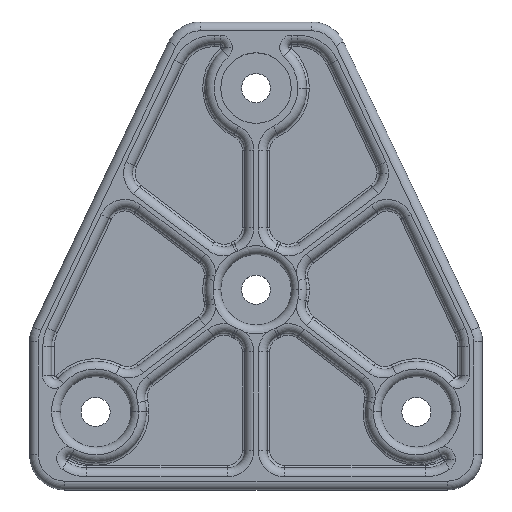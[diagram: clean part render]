
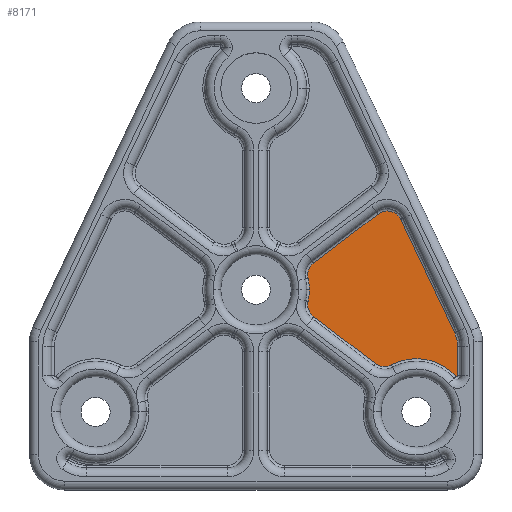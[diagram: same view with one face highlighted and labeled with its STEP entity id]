
A CAD part, top view. The second image highlights one B-rep face of the part: STEP entity #8171.
In plain terms, the highlighted planar face has unit normal (0, 0, 1).
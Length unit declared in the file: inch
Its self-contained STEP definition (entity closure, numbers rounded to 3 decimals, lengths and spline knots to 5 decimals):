
#6 = ORIENTED_EDGE ( 'NONE', *, *, #4790, .T. ) ;
#31 = DIRECTION ( 'NONE',  ( 0., 0., 1. ) ) ;
#108 = DIRECTION ( 'NONE',  ( 0., 0., 1. ) ) ;
#126 = CARTESIAN_POINT ( 'NONE',  ( 1.64231, 2.18401, 0.1875 ) ) ;
#184 = LINE ( 'NONE', #4843, #2020 ) ;
#216 = CARTESIAN_POINT ( 'NONE',  ( 0.59067, 1.51671, 0.1875 ) ) ;
#263 = CARTESIAN_POINT ( 'NONE',  ( 2.25411, 0.89805, 0.1875 ) ) ;
#497 = EDGE_LOOP ( 'NONE', ( #6358, #2715, #2506, #4099, #3902, #7330, #6, #7100, #6888, #1417, #1216, #4628, #8089 ) ) ;
#547 = DIRECTION ( 'NONE',  ( 1., 0., 0. ) ) ;
#623 = AXIS2_PLACEMENT_3D ( 'NONE', #1679, #6482, #2378 ) ;
#714 = CIRCLE ( 'NONE', #8611, 0.01 ) ;
#724 = VERTEX_POINT ( 'NONE', #4010 ) ;
#794 = DIRECTION ( 'NONE',  ( 0., 0., -1. ) ) ;
#850 = CARTESIAN_POINT ( 'NONE',  ( 0., 0., 0.1875 ) ) ;
#900 = EDGE_CURVE ( 'NONE', #724, #5660, #714, .T. ) ;
#1103 = CIRCLE ( 'NONE', #8495, 0.605 ) ;
#1216 = ORIENTED_EDGE ( 'NONE', *, *, #6684, .T. ) ;
#1417 = ORIENTED_EDGE ( 'NONE', *, *, #7954, .T. ) ;
#1539 = DIRECTION ( 'NONE',  ( 1., 0., 0. ) ) ;
#1679 = CARTESIAN_POINT ( 'NONE',  ( 1.45713, 0.6848, 0.1875 ) ) ;
#1809 = CIRCLE ( 'NONE', #6062, 0.17 ) ;
#1893 = VERTEX_POINT ( 'NONE', #3087 ) ;
#1928 = CIRCLE ( 'NONE', #4834, 0.605 ) ;
#2020 = VECTOR ( 'NONE', #6247, 39.37008 ) ;
#2085 = AXIS2_PLACEMENT_3D ( 'NONE', #6200, #2087, #6893 ) ;
#2087 = DIRECTION ( 'NONE',  ( 0., 0., 1. ) ) ;
#2283 = CARTESIAN_POINT ( 'NONE',  ( 2.28, 0.4082, 0.1875 ) ) ;
#2295 = DIRECTION ( 'NONE',  ( 0., 1., 0. ) ) ;
#2310 = DIRECTION ( 'NONE',  ( 0., 0., 1. ) ) ;
#2378 = DIRECTION ( 'NONE',  ( 1., 0., 0. ) ) ;
#2446 = CARTESIAN_POINT ( 'NONE',  ( 2.29, 0.73909, 0.1875 ) ) ;
#2506 = ORIENTED_EDGE ( 'NONE', *, *, #6057, .T. ) ;
#2628 = EDGE_CURVE ( 'NONE', #7950, #724, #1103, .T. ) ;
#2658 = CIRCLE ( 'NONE', #4323, 0.37 ) ;
#2715 = ORIENTED_EDGE ( 'NONE', *, *, #5084, .T. ) ;
#2765 = VECTOR ( 'NONE', #4334, 39.37008 ) ;
#2768 = FACE_OUTER_BOUND ( 'NONE', #497, .T. ) ;
#2889 = DIRECTION ( 'NONE',  ( 1., 0., 0. ) ) ;
#2892 = CARTESIAN_POINT ( 'NONE',  ( 1.82, 0., 0.1875 ) ) ;
#2983 = LINE ( 'NONE', #5025, #2765 ) ;
#3068 = DIRECTION ( 'NONE',  ( 0.796, -0.606, 0. ) ) ;
#3087 = CARTESIAN_POINT ( 'NONE',  ( 0.65366, 1.08292, 0.1875 ) ) ;
#3206 = CARTESIAN_POINT ( 'NONE',  ( 0., 1.38583, 0.1875 ) ) ;
#3220 = VERTEX_POINT ( 'NONE', #6629 ) ;
#3229 = CIRCLE ( 'NONE', #7090, 0.17 ) ;
#3578 = DIRECTION ( 'NONE',  ( 1., 0., 0. ) ) ;
#3597 = CARTESIAN_POINT ( 'NONE',  ( 1.38581, 2.24623, 0.1875 ) ) ;
#3688 = CARTESIAN_POINT ( 'NONE',  ( 2.29, 0.4082, 0.1875 ) ) ;
#3888 = DIRECTION ( 'NONE',  ( 1., 0., 0. ) ) ;
#3902 = ORIENTED_EDGE ( 'NONE', *, *, #6377, .T. ) ;
#3978 = VERTEX_POINT ( 'NONE', #216 ) ;
#4010 = CARTESIAN_POINT ( 'NONE',  ( 2.27252, 0.40156, 0.1875 ) ) ;
#4099 = ORIENTED_EDGE ( 'NONE', *, *, #5812, .T. ) ;
#4151 = CARTESIAN_POINT ( 'NONE',  ( 0.75665, 1.55348, 0.1875 ) ) ;
#4219 = CARTESIAN_POINT ( 'NONE',  ( 0.75665, 1.21818, 0.1875 ) ) ;
#4323 = AXIS2_PLACEMENT_3D ( 'NONE', #8774, #4636, #547 ) ;
#4334 = DIRECTION ( 'NONE',  ( -0.796, -0.606, 0. ) ) ;
#4628 = ORIENTED_EDGE ( 'NONE', *, *, #6339, .T. ) ;
#4636 = DIRECTION ( 'NONE',  ( 0., 0., 1. ) ) ;
#4790 = EDGE_CURVE ( 'NONE', #8597, #7950, #6072, .T. ) ;
#4834 = AXIS2_PLACEMENT_3D ( 'NONE', #4888, #794, #5591 ) ;
#4835 = DIRECTION ( 'NONE',  ( 1., 0., 0. ) ) ;
#4843 = CARTESIAN_POINT ( 'NONE',  ( 1.64231, 2.18401, 0.1875 ) ) ;
#4888 = CARTESIAN_POINT ( 'NONE',  ( 0., 1.38583, 0.1875 ) ) ;
#4900 = DIRECTION ( 'NONE',  ( 1., 0., 0. ) ) ;
#5025 = CARTESIAN_POINT ( 'NONE',  ( -0.57405, 0.7539, 0.1875 ) ) ;
#5084 = EDGE_CURVE ( 'NONE', #5744, #3978, #3229, .T. ) ;
#5151 = VERTEX_POINT ( 'NONE', #126 ) ;
#5445 = CIRCLE ( 'NONE', #6591, 0.605 ) ;
#5591 = DIRECTION ( 'NONE',  ( 1., 0., 0. ) ) ;
#5607 = PLANE ( 'NONE',  #7828 ) ;
#5643 = DIRECTION ( 'NONE',  ( 0., 0., 1. ) ) ;
#5660 = VERTEX_POINT ( 'NONE', #3688 ) ;
#5696 = CARTESIAN_POINT ( 'NONE',  ( 1.53673, 0.53458, 0.1875 ) ) ;
#5744 = VERTEX_POINT ( 'NONE', #7211 ) ;
#5776 = VECTOR ( 'NONE', #3068, 39.37008 ) ;
#5812 = EDGE_CURVE ( 'NONE', #8541, #3220, #5445, .T. ) ;
#6025 = EDGE_CURVE ( 'NONE', #5151, #6418, #7597, .T. ) ;
#6057 = EDGE_CURVE ( 'NONE', #3978, #8541, #1928, .T. ) ;
#6062 = AXIS2_PLACEMENT_3D ( 'NONE', #4219, #108, #4900 ) ;
#6072 = CIRCLE ( 'NONE', #623, 0.17 ) ;
#6103 = LINE ( 'NONE', #6420, #7945 ) ;
#6200 = CARTESIAN_POINT ( 'NONE',  ( 1.4888, 2.11098, 0.1875 ) ) ;
#6247 = DIRECTION ( 'NONE',  ( -0.43, 0.903, 0. ) ) ;
#6339 = EDGE_CURVE ( 'NONE', #6513, #5151, #184, .T. ) ;
#6358 = ORIENTED_EDGE ( 'NONE', *, *, #6498, .T. ) ;
#6377 = EDGE_CURVE ( 'NONE', #3220, #1893, #1809, .T. ) ;
#6418 = VERTEX_POINT ( 'NONE', #3597 ) ;
#6420 = CARTESIAN_POINT ( 'NONE',  ( 2.29, 0.73909, 0.1875 ) ) ;
#6482 = DIRECTION ( 'NONE',  ( 0., 0., 1. ) ) ;
#6498 = EDGE_CURVE ( 'NONE', #6418, #5744, #2983, .T. ) ;
#6513 = VERTEX_POINT ( 'NONE', #263 ) ;
#6543 = EDGE_CURVE ( 'NONE', #1893, #8597, #7585, .T. ) ;
#6591 = AXIS2_PLACEMENT_3D ( 'NONE', #3206, #7999, #3888 ) ;
#6629 = CARTESIAN_POINT ( 'NONE',  ( 0.59067, 1.25495, 0.1875 ) ) ;
#6684 = EDGE_CURVE ( 'NONE', #7156, #6513, #2658, .T. ) ;
#6888 = ORIENTED_EDGE ( 'NONE', *, *, #900, .T. ) ;
#6893 = DIRECTION ( 'NONE',  ( 1., 0., 0. ) ) ;
#7090 = AXIS2_PLACEMENT_3D ( 'NONE', #4151, #31, #4835 ) ;
#7100 = ORIENTED_EDGE ( 'NONE', *, *, #2628, .T. ) ;
#7156 = VERTEX_POINT ( 'NONE', #2446 ) ;
#7211 = CARTESIAN_POINT ( 'NONE',  ( 0.65366, 1.68874, 0.1875 ) ) ;
#7330 = ORIENTED_EDGE ( 'NONE', *, *, #6543, .T. ) ;
#7408 = CARTESIAN_POINT ( 'NONE',  ( 0.605, 1.38583, 0.1875 ) ) ;
#7487 = CARTESIAN_POINT ( 'NONE',  ( 1.35414, 0.54955, 0.1875 ) ) ;
#7585 = LINE ( 'NONE', #8521, #5776 ) ;
#7597 = CIRCLE ( 'NONE', #2085, 0.17 ) ;
#7683 = DIRECTION ( 'NONE',  ( 0., 0., -1. ) ) ;
#7828 = AXIS2_PLACEMENT_3D ( 'NONE', #850, #5643, #1539 ) ;
#7945 = VECTOR ( 'NONE', #2295, 39.37008 ) ;
#7950 = VERTEX_POINT ( 'NONE', #5696 ) ;
#7954 = EDGE_CURVE ( 'NONE', #5660, #7156, #6103, .T. ) ;
#7999 = DIRECTION ( 'NONE',  ( 0., 0., -1. ) ) ;
#8089 = ORIENTED_EDGE ( 'NONE', *, *, #6025, .T. ) ;
#8171 = ADVANCED_FACE ( 'NONE', ( #2768 ), #5607, .T. ) ;
#8495 = AXIS2_PLACEMENT_3D ( 'NONE', #2892, #7683, #3578 ) ;
#8521 = CARTESIAN_POINT ( 'NONE',  ( 0.76186, 1.00054, 0.1875 ) ) ;
#8541 = VERTEX_POINT ( 'NONE', #7408 ) ;
#8597 = VERTEX_POINT ( 'NONE', #7487 ) ;
#8611 = AXIS2_PLACEMENT_3D ( 'NONE', #2283, #2310, #2889 ) ;
#8774 = CARTESIAN_POINT ( 'NONE',  ( 1.92, 0.73909, 0.1875 ) ) ;
